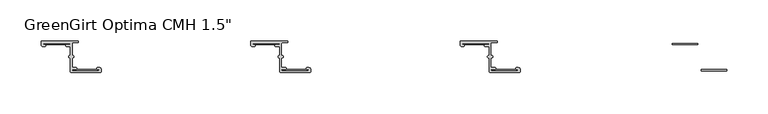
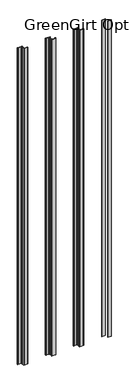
"""IFC4 building model written with IfcOpenShell, lengths in millimetres: fastener geometry."""

from ifc_helpers import new_model, si_unit, frame, origin, origin_with_axes, place, context, project, spatial, polyline, circle_curve, outline, extrude, source, transform, mapped, element, save
from ifc_brep_helpers import plane_surface, cylinder_surface, revolved_surface, advanced_brep


def fastener_6fa0a45e(model_context):
    return source(origin(), model_context, "Body", "SolidModel", [
        extrude(outline(polyline([(1101.09, -2.794), (1101.09, -4.5212), (1070.102, -4.5212), (1070.102, -2.794), (1101.09, -2.794)])), origin_with_axes(), (0.0, 0.0, 1.0), 3048.0),
        extrude(outline(polyline([(1136.269, -34.4677766), (1136.269, -36.1949766), (1105.281, -36.1949766), (1105.281, -34.4677766), (1136.269, -34.4677766)])), origin_with_axes(), (0.0, 0.0, 1.0), 3048.0),
        advanced_brep(
        [(816.102, -2.794, 3048.0), (847.471, -2.794, 3048.0), (847.471, -4.5212, 3048.0), (843.28, -4.5212, 3048.0), (843.28, -6.5532, 3048.0), (847.471, -6.5532, 3048.0), (848.233, -7.3152, 3048.0), (848.233, -17.7601563, 3048.0), (847.3845567, -17.7601563, 3048.0), (847.3845567, -20.4288947, 3048.0), (848.233, -20.4288947, 3048.0), (848.233, -37.3379766, 3048.0), (848.995, -38.0999766, 3048.0), (884.8513242, -38.1, 3048.0), (885.571, -37.3379766, 3048.0), (885.571, -34.4677766, 3048.0), (883.539, -32.4357766, 3048.0), (881.253, -32.4357766, 3048.0), (881.253, -34.4677766, 3048.0), (882.269, -34.4677766, 3048.0), (882.269, -36.1949766, 3048.0), (850.9, -36.1949766, 3048.0), (850.9, -34.4677766, 3048.0), (855.091, -34.4677766, 3048.0), (855.091, -32.4357766, 3048.0), (850.9, -32.4357766, 3048.0), (850.138, -31.6737766, 3048.0), (850.138, -20.4279799, 3048.0), (850.9869007, -20.4279799, 3048.0), (850.9869007, -17.7601563, 3048.0), (850.138, -17.7601563, 3048.0), (850.138, -2.667, 3048.0), (850.9, -1.905, 3048.0), (856.996, -1.905, 3048.0), (856.996, 0.0, 3048.0), (813.562, 0.0, 3048.0), (812.8, -0.762, 3048.0), (812.8, -4.5212, 3048.0), (814.832, -6.5532, 3048.0), (817.118, -6.5532, 3048.0), (817.118, -4.5212, 3048.0), (816.102, -4.5212, 3048.0), (816.102, -2.794, 0.0), (816.102, -4.5212, 0.0), (817.118, -4.5212, 0.0), (817.118, -6.5532, 0.0), (814.832, -6.5532, 0.0), (812.8, -4.5212, 0.0), (812.8, -0.762, 0.0), (813.562, 0.0, 0.0), (856.996, 0.0, 0.0), (856.996, -1.905, 0.0), (850.9, -1.905, 0.0), (850.138, -2.667, 0.0), (850.138, -17.7601563, 0.0), (850.9869007, -17.7601563, 0.0), (850.9869007, -20.4279799, 0.0), (850.138, -20.4279799, 0.0), (850.138, -31.6737766, 0.0), (850.9, -32.4357766, 0.0), (855.091, -32.4357766, 0.0), (855.091, -34.4677766, 0.0), (850.9, -34.4677766, 0.0), (850.9, -36.1949766, 0.0), (882.269, -36.1949766, 0.0), (882.269, -34.4677766, 0.0), (881.253, -34.4677766, 0.0), (881.253, -32.4357766, 0.0), (883.539, -32.4357766, 0.0), (885.571, -34.4677766, 0.0), (885.571, -37.3379766, 0.0), (884.809, -38.0999766, 0.0), (848.9676774, -38.1, 0.0), (848.233, -37.3379766, 0.0), (848.233, -20.4288947, 0.0), (847.3845567, -20.4288947, 0.0), (847.3845567, -17.7601563, 0.0), (848.233, -17.7601563, 0.0), (848.233, -7.3152, 0.0), (847.471, -6.5532, 0.0), (843.28, -6.5532, 0.0), (843.28, -4.5212, 0.0), (847.471, -4.5212, 0.0), (847.471, -2.794, 0.0)],
        [
            (0, 1),
            (1, 2, circle_curve(frame((847.471, -3.6576, 3048.0), z_axis=(0.0, 0.0, -1.0), x_axis=(1.0, 0.0, 0.0)), 0.8636)),
            (2, 3),
            (3, 4, circle_curve(frame((843.28, -5.5372, 3048.0), z_axis=(0.0, 0.0, 1.0), x_axis=(1.0, 0.0, 0.0)), 1.016)),
            (4, 5),
            (5, 6, circle_curve(frame((847.471, -7.3152, 3048.0), z_axis=(0.0, 0.0, -1.0), x_axis=(1.0, 0.0, 0.0)), 0.762)),
            (6, 7),
            (7, 8),
            (8, 9, circle_curve(frame((847.3845567, -19.0945255, 3048.0), z_axis=(0.0, 0.0, 1.0), x_axis=(1.0, 0.0, 0.0)), 1.3343692)),
            (9, 10),
            (10, 11),
            (11, 12, circle_curve(frame((848.995, -37.3379766, 3048.0), z_axis=(0.0, 0.0, 1.0), x_axis=(1.0, 0.0, 0.0)), 0.762)),
            (12, 13),
            (13, 14, circle_curve(frame((884.809, -37.3379766, 3048.0), z_axis=(0.0, 0.0, 1.0), x_axis=(1.0, 0.0, 0.0)), 0.762)),
            (14, 15),
            (15, 16, circle_curve(frame((883.539, -34.4677766, 3048.0), z_axis=(0.0, 0.0, 1.0), x_axis=(1.0, 0.0, 0.0)), 2.032)),
            (16, 17),
            (17, 18, circle_curve(frame((881.253, -33.4517766, 3048.0), z_axis=(0.0, 0.0, 1.0), x_axis=(1.0, 0.0, 0.0)), 1.016)),
            (18, 19),
            (19, 20, circle_curve(frame((882.269, -35.3313766, 3048.0), z_axis=(0.0, 0.0, -1.0), x_axis=(1.0, 0.0, 0.0)), 0.8636)),
            (20, 21),
            (21, 22, circle_curve(frame((850.9, -35.3313766, 3048.0), z_axis=(0.0, 0.0, -1.0), x_axis=(1.0, 0.0, 0.0)), 0.8636)),
            (22, 23),
            (23, 24, circle_curve(frame((855.091, -33.4517766, 3048.0), z_axis=(0.0, 0.0, 1.0), x_axis=(1.0, 0.0, 0.0)), 1.016)),
            (24, 25),
            (25, 26, circle_curve(frame((850.9, -31.6737766, 3048.0), z_axis=(0.0, 0.0, -1.0), x_axis=(1.0, 0.0, 0.0)), 0.762)),
            (26, 27),
            (27, 28),
            (28, 29, circle_curve(frame((850.9869007, -19.0940681, 3048.0), z_axis=(0.0, 0.0, 1.0), x_axis=(1.0, 0.0, 0.0)), 1.3339118)),
            (29, 30),
            (30, 31),
            (31, 32, circle_curve(frame((850.9, -2.667, 3048.0), z_axis=(0.0, 0.0, -1.0), x_axis=(1.0, 0.0, 0.0)), 0.762)),
            (32, 33),
            (33, 34, circle_curve(frame((856.996, -0.9525, 3048.0), z_axis=(0.0, 0.0, 1.0), x_axis=(1.0, 0.0, 0.0)), 0.9525)),
            (34, 35),
            (35, 36, circle_curve(frame((813.562, -0.762, 3048.0), z_axis=(0.0, 0.0, 1.0), x_axis=(1.0, 0.0, 0.0)), 0.762)),
            (36, 37),
            (37, 38, circle_curve(frame((814.832, -4.5212, 3048.0), z_axis=(0.0, 0.0, 1.0), x_axis=(1.0, 0.0, 0.0)), 2.032)),
            (38, 39),
            (39, 40, circle_curve(frame((817.118, -5.5372, 3048.0), z_axis=(0.0, 0.0, 1.0), x_axis=(1.0, 0.0, 0.0)), 1.016)),
            (40, 41),
            (41, 0, circle_curve(frame((816.102, -3.6576, 3048.0), z_axis=(0.0, 0.0, -1.0), x_axis=(1.0, 0.0, 0.0)), 0.8636)),
            (42, 43, circle_curve(frame((816.102, -3.6576, 0.0), z_axis=(0.0, 0.0, 1.0), x_axis=(1.0, 0.0, 0.0)), 0.8636)),
            (43, 44),
            (44, 45, circle_curve(frame((817.118, -5.5372, 0.0), z_axis=(0.0, 0.0, -1.0), x_axis=(1.0, 0.0, 0.0)), 1.016)),
            (45, 46),
            (46, 47, circle_curve(frame((814.832, -4.5212, 0.0), z_axis=(0.0, 0.0, -1.0), x_axis=(1.0, 0.0, 0.0)), 2.032)),
            (47, 48),
            (48, 49, circle_curve(frame((813.562, -0.762, 0.0), z_axis=(0.0, 0.0, -1.0), x_axis=(1.0, 0.0, 0.0)), 0.762)),
            (49, 50),
            (50, 51, circle_curve(frame((856.996, -0.9525, 0.0), z_axis=(0.0, 0.0, -1.0), x_axis=(1.0, 0.0, 0.0)), 0.9525)),
            (51, 52),
            (52, 53, circle_curve(frame((850.9, -2.667, 0.0), z_axis=(0.0, 0.0, 1.0), x_axis=(1.0, 0.0, 0.0)), 0.762)),
            (53, 54),
            (54, 55),
            (55, 56, circle_curve(frame((850.9869007, -19.0940681, 0.0), z_axis=(0.0, 0.0, -1.0), x_axis=(1.0, 0.0, 0.0)), 1.3339118)),
            (56, 57),
            (57, 58),
            (58, 59, circle_curve(frame((850.9, -31.6737766, 0.0), z_axis=(0.0, 0.0, 1.0), x_axis=(1.0, 0.0, 0.0)), 0.762)),
            (59, 60),
            (60, 61, circle_curve(frame((855.091, -33.4517766, 0.0), z_axis=(0.0, 0.0, -1.0), x_axis=(1.0, 0.0, 0.0)), 1.016)),
            (61, 62),
            (62, 63, circle_curve(frame((850.9, -35.3313766, 0.0), z_axis=(0.0, 0.0, 1.0), x_axis=(1.0, 0.0, 0.0)), 0.8636)),
            (63, 64),
            (64, 65, circle_curve(frame((882.269, -35.3313766, 0.0), z_axis=(0.0, 0.0, 1.0), x_axis=(1.0, 0.0, 0.0)), 0.8636)),
            (65, 66),
            (66, 67, circle_curve(frame((881.253, -33.4517766, 0.0), z_axis=(0.0, 0.0, -1.0), x_axis=(1.0, 0.0, 0.0)), 1.016)),
            (67, 68),
            (68, 69, circle_curve(frame((883.539, -34.4677766, 0.0), z_axis=(0.0, 0.0, -1.0), x_axis=(1.0, 0.0, 0.0)), 2.032)),
            (69, 70),
            (70, 71, circle_curve(frame((884.809, -37.3379766, 0.0), z_axis=(0.0, 0.0, -1.0), x_axis=(1.0, 0.0, 0.0)), 0.762)),
            (71, 72),
            (72, 73, circle_curve(frame((848.995, -37.3379766, 0.0), z_axis=(0.0, 0.0, -1.0), x_axis=(1.0, 0.0, 0.0)), 0.762)),
            (73, 74),
            (74, 75),
            (75, 76, circle_curve(frame((847.3845567, -19.0945255, 0.0), z_axis=(0.0, 0.0, -1.0), x_axis=(1.0, 0.0, 0.0)), 1.3343692)),
            (76, 77),
            (77, 78),
            (78, 79, circle_curve(frame((847.471, -7.3152, 0.0), z_axis=(0.0, 0.0, 1.0), x_axis=(1.0, 0.0, 0.0)), 0.762)),
            (79, 80),
            (80, 81, circle_curve(frame((843.28, -5.5372, 0.0), z_axis=(0.0, 0.0, -1.0), x_axis=(1.0, 0.0, 0.0)), 1.016)),
            (81, 82),
            (82, 83, circle_curve(frame((847.471, -3.6576, 0.0), z_axis=(0.0, 0.0, 1.0), x_axis=(1.0, 0.0, 0.0)), 0.8636)),
            (83, 42),
            (0, 42),
            (83, 1),
            (82, 2),
            (81, 3),
            (80, 4),
            (79, 5),
            (78, 6),
            (77, 7),
            (76, 8),
            (75, 9),
            (74, 10),
            (73, 11),
            (72, 12),
            (71, 13),
            (70, 14),
            (69, 15),
            (68, 16),
            (67, 17),
            (66, 18),
            (65, 19),
            (64, 20),
            (63, 21),
            (62, 22),
            (61, 23),
            (60, 24),
            (59, 25),
            (58, 26),
            (57, 27),
            (56, 28),
            (55, 29),
            (54, 30),
            (53, 31),
            (52, 32),
            (51, 33),
            (50, 34),
            (49, 35),
            (48, 36),
            (47, 37),
            (46, 38),
            (45, 39),
            (44, 40),
            (43, 41),
        ],
        [
            plane_surface(frame((847.471, -2.794, 3048.0), z_axis=(0.0, 0.0, 1.0), x_axis=(1.0, 0.0, 0.0))),
            plane_surface(frame((847.471, -2.794, 0.0), z_axis=(0.0, 0.0, -1.0), x_axis=(-1.0, 0.0, 0.0))),
            plane_surface(frame((816.102, -2.794, 3048.0), z_axis=(0.0, -1.0, 0.0), x_axis=(0.0, 0.0, -1.0))),
            revolved_surface(polyline([(848.3346, -3.6576, 0.0), (848.3346, -3.6576, 3048.0)]), (847.471, -3.6576, 0.0), (0.0, 0.0, -1.0)),
            plane_surface(frame((847.471, -4.5212, 3048.0), z_axis=(0.0, 1.0, 0.0), x_axis=(0.0, 0.0, -1.0))),
            cylinder_surface(frame((843.28, -5.5372, 0.0), z_axis=(0.0, 0.0, 1.0), x_axis=(1.0, 0.0, 0.0)), 1.016),
            plane_surface(frame((843.28, -6.5532, 3048.0), z_axis=(0.0, -1.0, 0.0), x_axis=(0.0, 0.0, -1.0))),
            revolved_surface(polyline([(848.233, -7.3152, 0.0), (848.233, -7.3152, 3048.0)]), (847.471, -7.3152, 0.0), (0.0, 0.0, -1.0)),
            plane_surface(frame((848.233, -7.3152, 3048.0), z_axis=(-1.0, 0.0, 0.0), x_axis=(0.0, 0.0, -1.0))),
            plane_surface(frame((848.233, -17.7601563, 3048.0), z_axis=(0.0, 1.0, 0.0), x_axis=(0.0, 0.0, -1.0))),
            cylinder_surface(frame((847.3845567, -19.0945255, 0.0), z_axis=(0.0, 0.0, 1.0), x_axis=(1.0, 0.0, 0.0)), 1.3343692),
            plane_surface(frame((847.3845567, -20.4288947, 3048.0), z_axis=(0.0, -1.0, 0.0), x_axis=(0.0, 0.0, -1.0))),
            plane_surface(frame((848.233, -20.4288947, 3048.0), z_axis=(-1.0, 0.0, 0.0), x_axis=(0.0, 0.0, -1.0))),
            cylinder_surface(frame((848.995, -37.3379766, 0.0), z_axis=(0.0, 0.0, 1.0), x_axis=(1.0, 0.0, 0.0)), 0.762),
            plane_surface(frame((848.9676774, -38.1, 3048.0), z_axis=(0.0, -1.0, 0.0), x_axis=(0.0, 0.0, -1.0))),
            cylinder_surface(frame((884.809, -37.3379766, 0.0), z_axis=(0.0, 0.0, 1.0), x_axis=(1.0, 0.0, 0.0)), 0.762),
            plane_surface(frame((885.571, -37.3379766, 3048.0), z_axis=(1.0, 1.3794275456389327e-12, 0.0), x_axis=(0.0, 0.0, -1.0))),
            cylinder_surface(frame((883.539, -34.4677766, 0.0), z_axis=(0.0, 0.0, 1.0), x_axis=(1.0, 0.0, 0.0)), 2.032),
            plane_surface(frame((883.539, -32.4357766, 3048.0), z_axis=(0.0, 1.0, 0.0), x_axis=(0.0, 0.0, -1.0))),
            cylinder_surface(frame((881.253, -33.4517766, 0.0), z_axis=(0.0, 0.0, 1.0), x_axis=(1.0, 0.0, 0.0)), 1.016),
            plane_surface(frame((881.253, -34.4677766, 3048.0), z_axis=(0.0, -1.0, 0.0), x_axis=(0.0, 0.0, -1.0))),
            revolved_surface(polyline([(883.1326, -35.3313766, 0.0), (883.1326, -35.3313766, 3048.0)]), (882.269, -35.3313766, 0.0), (0.0, 0.0, -1.0)),
            plane_surface(frame((882.269, -36.1949766, 3048.0), z_axis=(0.0, 1.0, 0.0), x_axis=(0.0, 0.0, -1.0))),
            revolved_surface(polyline([(851.7636, -35.3313766, 0.0), (851.7636, -35.3313766, 3048.0)]), (850.9, -35.3313766, 0.0), (0.0, 0.0, -1.0)),
            plane_surface(frame((850.9, -34.4677766, 3048.0), z_axis=(0.0, -1.0, 0.0), x_axis=(0.0, 0.0, -1.0))),
            cylinder_surface(frame((855.091, -33.4517766, 0.0), z_axis=(0.0, 0.0, 1.0), x_axis=(1.0, 0.0, 0.0)), 1.016),
            plane_surface(frame((855.091, -32.4357766, 3048.0), z_axis=(0.0, 1.0, 0.0), x_axis=(0.0, 0.0, -1.0))),
            revolved_surface(polyline([(851.6619999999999, -31.6737766, 0.0), (851.6619999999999, -31.6737766, 3048.0)]), (850.9, -31.6737766, 0.0), (0.0, 0.0, -1.0)),
            plane_surface(frame((850.138, -31.6737766, 3048.0), z_axis=(1.0, 0.0, 0.0), x_axis=(0.0, 0.0, -1.0))),
            plane_surface(frame((850.138, -20.4279799, 3048.0), z_axis=(0.0, -1.0, 0.0), x_axis=(0.0, 0.0, -1.0))),
            cylinder_surface(frame((850.9869007, -19.0940681, 0.0), z_axis=(0.0, 0.0, 1.0), x_axis=(1.0, 0.0, 0.0)), 1.3339118),
            plane_surface(frame((850.9869007, -17.7601563, 3048.0), z_axis=(0.0, 1.0, 0.0), x_axis=(0.0, 0.0, -1.0))),
            plane_surface(frame((850.138, -17.7601563, 3048.0), z_axis=(1.0, 0.0, 0.0), x_axis=(0.0, 0.0, -1.0))),
            revolved_surface(polyline([(851.6619999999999, -2.667, 0.0), (851.6619999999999, -2.667, 3048.0)]), (850.9, -2.667, 0.0), (0.0, 0.0, -1.0)),
            plane_surface(frame((850.9, -1.905, 3048.0), z_axis=(0.0, -1.0, 0.0), x_axis=(0.0, 0.0, -1.0))),
            cylinder_surface(frame((856.996, -0.9525, 0.0), z_axis=(0.0, 0.0, 1.0), x_axis=(1.0, 0.0, 0.0)), 0.9525),
            plane_surface(frame((856.996, 0.0, 3048.0), z_axis=(0.0, 1.0, 0.0), x_axis=(0.0, 0.0, -1.0))),
            cylinder_surface(frame((813.562, -0.762, 0.0), z_axis=(0.0, 0.0, 1.0), x_axis=(1.0, 0.0, 0.0)), 0.762),
            plane_surface(frame((812.8, -0.762, 3048.0), z_axis=(-1.0, 2.681638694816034e-11, 0.0), x_axis=(0.0, 0.0, -1.0))),
            cylinder_surface(frame((814.832, -4.5212, 0.0), z_axis=(0.0, 0.0, 1.0), x_axis=(1.0, 0.0, 0.0)), 2.032),
            plane_surface(frame((814.832, -6.5532, 3048.0), z_axis=(0.0, -1.0, 0.0), x_axis=(0.0, 0.0, -1.0))),
            cylinder_surface(frame((817.118, -5.5372, 0.0), z_axis=(0.0, 0.0, 1.0), x_axis=(1.0, 0.0, 0.0)), 1.016),
            plane_surface(frame((817.118, -4.5212, 3048.0), z_axis=(0.0, 1.0, 0.0), x_axis=(0.0, 0.0, -1.0))),
            revolved_surface(polyline([(816.9656, -3.6576, 0.0), (816.9656, -3.6576, 3048.0)]), (816.102, -3.6576, 0.0), (0.0, 0.0, -1.0)),
        ],
        [
            (0, [[1, 2, 3, 4, 5, 6, 7, 8, 9, 10, 11, 12, 13, 14, 15, 16, 17, 18, 19, 20, 21, 22, 23, 24, 25, 26, 27, 28, 29, 30, 31, 32, 33, 34, 35, 36, 37, 38, 39, 40, 41, 42]]),
            (1, [[43, 44, 45, 46, 47, 48, 49, 50, 51, 52, 53, 54, 55, 56, 57, 58, 59, 60, 61, 62, 63, 64, 65, 66, 67, 68, 69, 70, 71, 72, 73, 74, 75, 76, 77, 78, 79, 80, 81, 82, 83, 84]]),
            (2, [[-1, 85, -84, 86]]),
            (3, [[-2, -86, -83, 87]]),
            (4, [[-3, -87, -82, 88]]),
            (5, [[-4, -88, -81, 89]]),
            (6, [[-5, -89, -80, 90]]),
            (7, [[-6, -90, -79, 91]]),
            (8, [[-7, -91, -78, 92]]),
            (9, [[-8, -92, -77, 93]]),
            (10, [[-9, -93, -76, 94]]),
            (11, [[-10, -94, -75, 95]]),
            (12, [[-11, -95, -74, 96]]),
            (13, [[-12, -96, -73, 97]]),
            (14, [[-13, -97, -72, 98]]),
            (15, [[-14, -98, -71, 99]]),
            (16, [[-15, -99, -70, 100]]),
            (17, [[-16, -100, -69, 101]]),
            (18, [[-17, -101, -68, 102]]),
            (19, [[-18, -102, -67, 103]]),
            (20, [[-19, -103, -66, 104]]),
            (21, [[-20, -104, -65, 105]]),
            (22, [[-21, -105, -64, 106]]),
            (23, [[-22, -106, -63, 107]]),
            (24, [[-23, -107, -62, 108]]),
            (25, [[-24, -108, -61, 109]]),
            (26, [[-25, -109, -60, 110]]),
            (27, [[-26, -110, -59, 111]]),
            (28, [[-27, -111, -58, 112]]),
            (29, [[-28, -112, -57, 113]]),
            (30, [[-29, -113, -56, 114]]),
            (31, [[-30, -114, -55, 115]]),
            (32, [[-31, -115, -54, 116]]),
            (33, [[-32, -116, -53, 117]]),
            (34, [[-33, -117, -52, 118]]),
            (35, [[-34, -118, -51, 119]]),
            (36, [[-35, -119, -50, 120]]),
            (37, [[-36, -120, -49, 121]]),
            (38, [[-37, -121, -48, 122]]),
            (39, [[-38, -122, -47, 123]]),
            (40, [[-39, -123, -46, 124]]),
            (41, [[-40, -124, -45, 125]]),
            (42, [[-41, -125, -44, 126]]),
            (43, [[-42, -126, -43, -85]]),
        ],
    ),
        extrude(outline(polyline([(847.09, -2.794), (847.09, -4.5212), (816.102, -4.5212), (816.102, -2.794), (847.09, -2.794)])), origin_with_axes(), (0.0, 0.0, 1.0), 3048.0),
        extrude(outline(polyline([(882.269, -34.4677766), (882.269, -36.1949766), (851.281, -36.1949766), (851.281, -34.4677766), (882.269, -34.4677766)])), origin_with_axes(), (0.0, 0.0, 1.0), 3048.0),
        advanced_brep(
        [(562.102, -2.794, 3048.0), (593.471, -2.794, 3048.0), (593.471, -4.5212, 3048.0), (589.28, -4.5212, 3048.0), (589.28, -6.5532, 3048.0), (593.471, -6.5532, 3048.0), (594.233, -7.3152, 3048.0), (594.233, -17.7601563, 3048.0), (593.3845567, -17.7601563, 3048.0), (593.3845567, -20.4288947, 3048.0), (594.233, -20.4288947, 3048.0), (594.233, -37.3379766, 3048.0), (594.995, -38.0999766, 3048.0), (630.8513242, -38.1, 3048.0), (631.571, -37.3379766, 3048.0), (631.571, -34.4677766, 3048.0), (629.539, -32.4357766, 3048.0), (627.253, -32.4357766, 3048.0), (627.253, -34.4677766, 3048.0), (628.269, -34.4677766, 3048.0), (628.269, -36.1949766, 3048.0), (596.9, -36.1949766, 3048.0), (596.9, -34.4677766, 3048.0), (601.091, -34.4677766, 3048.0), (601.091, -32.4357766, 3048.0), (596.9, -32.4357766, 3048.0), (596.138, -31.6737766, 3048.0), (596.138, -20.4279799, 3048.0), (596.9869007, -20.4279799, 3048.0), (596.9869007, -17.7601563, 3048.0), (596.138, -17.7601563, 3048.0), (596.138, -2.667, 3048.0), (596.9, -1.905, 3048.0), (602.996, -1.905, 3048.0), (602.996, 0.0, 3048.0), (559.562, 0.0, 3048.0), (558.8, -0.762, 3048.0), (558.8, -4.5212, 3048.0), (560.832, -6.5532, 3048.0), (563.118, -6.5532, 3048.0), (563.118, -4.5212, 3048.0), (562.102, -4.5212, 3048.0), (562.102, -2.794, 0.0), (562.102, -4.5212, 0.0), (563.118, -4.5212, 0.0), (563.118, -6.5532, 0.0), (560.832, -6.5532, 0.0), (558.8, -4.5212, 0.0), (558.8, -0.762, 0.0), (559.562, 0.0, 0.0), (602.996, 0.0, 0.0), (602.996, -1.905, 0.0), (596.9, -1.905, 0.0), (596.138, -2.667, 0.0), (596.138, -17.7601563, 0.0), (596.9869007, -17.7601563, 0.0), (596.9869007, -20.4279799, 0.0), (596.138, -20.4279799, 0.0), (596.138, -31.6737766, 0.0), (596.9, -32.4357766, 0.0), (601.091, -32.4357766, 0.0), (601.091, -34.4677766, 0.0), (596.9, -34.4677766, 0.0), (596.9, -36.1949766, 0.0), (628.269, -36.1949766, 0.0), (628.269, -34.4677766, 0.0), (627.253, -34.4677766, 0.0), (627.253, -32.4357766, 0.0), (629.539, -32.4357766, 0.0), (631.571, -34.4677766, 0.0), (631.571, -37.3379766, 0.0), (630.809, -38.0999766, 0.0), (594.9676774, -38.1, 0.0), (594.233, -37.3379766, 0.0), (594.233, -20.4288947, 0.0), (593.3845567, -20.4288947, 0.0), (593.3845567, -17.7601563, 0.0), (594.233, -17.7601563, 0.0), (594.233, -7.3152, 0.0), (593.471, -6.5532, 0.0), (589.28, -6.5532, 0.0), (589.28, -4.5212, 0.0), (593.471, -4.5212, 0.0), (593.471, -2.794, 0.0)],
        [
            (0, 1),
            (1, 2, circle_curve(frame((593.471, -3.6576, 3048.0), z_axis=(0.0, 0.0, -1.0), x_axis=(1.0, 0.0, 0.0)), 0.8636)),
            (2, 3),
            (3, 4, circle_curve(frame((589.28, -5.5372, 3048.0), z_axis=(0.0, 0.0, 1.0), x_axis=(1.0, 0.0, 0.0)), 1.016)),
            (4, 5),
            (5, 6, circle_curve(frame((593.471, -7.3152, 3048.0), z_axis=(0.0, 0.0, -1.0), x_axis=(1.0, 0.0, 0.0)), 0.762)),
            (6, 7),
            (7, 8),
            (8, 9, circle_curve(frame((593.3845567, -19.0945255, 3048.0), z_axis=(0.0, 0.0, 1.0), x_axis=(1.0, 0.0, 0.0)), 1.3343692)),
            (9, 10),
            (10, 11),
            (11, 12, circle_curve(frame((594.995, -37.3379766, 3048.0), z_axis=(0.0, 0.0, 1.0), x_axis=(1.0, 0.0, 0.0)), 0.762)),
            (12, 13),
            (13, 14, circle_curve(frame((630.809, -37.3379766, 3048.0), z_axis=(0.0, 0.0, 1.0), x_axis=(1.0, 0.0, 0.0)), 0.762)),
            (14, 15),
            (15, 16, circle_curve(frame((629.539, -34.4677766, 3048.0), z_axis=(0.0, 0.0, 1.0), x_axis=(1.0, 0.0, 0.0)), 2.032)),
            (16, 17),
            (17, 18, circle_curve(frame((627.253, -33.4517766, 3048.0), z_axis=(0.0, 0.0, 1.0), x_axis=(1.0, 0.0, 0.0)), 1.016)),
            (18, 19),
            (19, 20, circle_curve(frame((628.269, -35.3313766, 3048.0), z_axis=(0.0, 0.0, -1.0), x_axis=(1.0, 0.0, 0.0)), 0.8636)),
            (20, 21),
            (21, 22, circle_curve(frame((596.9, -35.3313766, 3048.0), z_axis=(0.0, 0.0, -1.0), x_axis=(1.0, 0.0, 0.0)), 0.8636)),
            (22, 23),
            (23, 24, circle_curve(frame((601.091, -33.4517766, 3048.0), z_axis=(0.0, 0.0, 1.0), x_axis=(1.0, 0.0, 0.0)), 1.016)),
            (24, 25),
            (25, 26, circle_curve(frame((596.9, -31.6737766, 3048.0), z_axis=(0.0, 0.0, -1.0), x_axis=(1.0, 0.0, 0.0)), 0.762)),
            (26, 27),
            (27, 28),
            (28, 29, circle_curve(frame((596.9869007, -19.0940681, 3048.0), z_axis=(0.0, 0.0, 1.0), x_axis=(1.0, 0.0, 0.0)), 1.3339118)),
            (29, 30),
            (30, 31),
            (31, 32, circle_curve(frame((596.9, -2.667, 3048.0), z_axis=(0.0, 0.0, -1.0), x_axis=(1.0, 0.0, 0.0)), 0.762)),
            (32, 33),
            (33, 34, circle_curve(frame((602.996, -0.9525, 3048.0), z_axis=(0.0, 0.0, 1.0), x_axis=(1.0, 0.0, 0.0)), 0.9525)),
            (34, 35),
            (35, 36, circle_curve(frame((559.562, -0.762, 3048.0), z_axis=(0.0, 0.0, 1.0), x_axis=(1.0, 0.0, 0.0)), 0.762)),
            (36, 37),
            (37, 38, circle_curve(frame((560.832, -4.5212, 3048.0), z_axis=(0.0, 0.0, 1.0), x_axis=(1.0, 0.0, 0.0)), 2.032)),
            (38, 39),
            (39, 40, circle_curve(frame((563.118, -5.5372, 3048.0), z_axis=(0.0, 0.0, 1.0), x_axis=(1.0, 0.0, 0.0)), 1.016)),
            (40, 41),
            (41, 0, circle_curve(frame((562.102, -3.6576, 3048.0), z_axis=(0.0, 0.0, -1.0), x_axis=(1.0, 0.0, 0.0)), 0.8636)),
            (42, 43, circle_curve(frame((562.102, -3.6576, 0.0), z_axis=(0.0, 0.0, 1.0), x_axis=(1.0, 0.0, 0.0)), 0.8636)),
            (43, 44),
            (44, 45, circle_curve(frame((563.118, -5.5372, 0.0), z_axis=(0.0, 0.0, -1.0), x_axis=(1.0, 0.0, 0.0)), 1.016)),
            (45, 46),
            (46, 47, circle_curve(frame((560.832, -4.5212, 0.0), z_axis=(0.0, 0.0, -1.0), x_axis=(1.0, 0.0, 0.0)), 2.032)),
            (47, 48),
            (48, 49, circle_curve(frame((559.562, -0.762, 0.0), z_axis=(0.0, 0.0, -1.0), x_axis=(1.0, 0.0, 0.0)), 0.762)),
            (49, 50),
            (50, 51, circle_curve(frame((602.996, -0.9525, 0.0), z_axis=(0.0, 0.0, -1.0), x_axis=(1.0, 0.0, 0.0)), 0.9525)),
            (51, 52),
            (52, 53, circle_curve(frame((596.9, -2.667, 0.0), z_axis=(0.0, 0.0, 1.0), x_axis=(1.0, 0.0, 0.0)), 0.762)),
            (53, 54),
            (54, 55),
            (55, 56, circle_curve(frame((596.9869007, -19.0940681, 0.0), z_axis=(0.0, 0.0, -1.0), x_axis=(1.0, 0.0, 0.0)), 1.3339118)),
            (56, 57),
            (57, 58),
            (58, 59, circle_curve(frame((596.9, -31.6737766, 0.0), z_axis=(0.0, 0.0, 1.0), x_axis=(1.0, 0.0, 0.0)), 0.762)),
            (59, 60),
            (60, 61, circle_curve(frame((601.091, -33.4517766, 0.0), z_axis=(0.0, 0.0, -1.0), x_axis=(1.0, 0.0, 0.0)), 1.016)),
            (61, 62),
            (62, 63, circle_curve(frame((596.9, -35.3313766, 0.0), z_axis=(0.0, 0.0, 1.0), x_axis=(1.0, 0.0, 0.0)), 0.8636)),
            (63, 64),
            (64, 65, circle_curve(frame((628.269, -35.3313766, 0.0), z_axis=(0.0, 0.0, 1.0), x_axis=(1.0, 0.0, 0.0)), 0.8636)),
            (65, 66),
            (66, 67, circle_curve(frame((627.253, -33.4517766, 0.0), z_axis=(0.0, 0.0, -1.0), x_axis=(1.0, 0.0, 0.0)), 1.016)),
            (67, 68),
            (68, 69, circle_curve(frame((629.539, -34.4677766, 0.0), z_axis=(0.0, 0.0, -1.0), x_axis=(1.0, 0.0, 0.0)), 2.032)),
            (69, 70),
            (70, 71, circle_curve(frame((630.809, -37.3379766, 0.0), z_axis=(0.0, 0.0, -1.0), x_axis=(1.0, 0.0, 0.0)), 0.762)),
            (71, 72),
            (72, 73, circle_curve(frame((594.995, -37.3379766, 0.0), z_axis=(0.0, 0.0, -1.0), x_axis=(1.0, 0.0, 0.0)), 0.762)),
            (73, 74),
            (74, 75),
            (75, 76, circle_curve(frame((593.3845567, -19.0945255, 0.0), z_axis=(0.0, 0.0, -1.0), x_axis=(1.0, 0.0, 0.0)), 1.3343692)),
            (76, 77),
            (77, 78),
            (78, 79, circle_curve(frame((593.471, -7.3152, 0.0), z_axis=(0.0, 0.0, 1.0), x_axis=(1.0, 0.0, 0.0)), 0.762)),
            (79, 80),
            (80, 81, circle_curve(frame((589.28, -5.5372, 0.0), z_axis=(0.0, 0.0, -1.0), x_axis=(1.0, 0.0, 0.0)), 1.016)),
            (81, 82),
            (82, 83, circle_curve(frame((593.471, -3.6576, 0.0), z_axis=(0.0, 0.0, 1.0), x_axis=(1.0, 0.0, 0.0)), 0.8636)),
            (83, 42),
            (0, 42),
            (83, 1),
            (82, 2),
            (81, 3),
            (80, 4),
            (79, 5),
            (78, 6),
            (77, 7),
            (76, 8),
            (75, 9),
            (74, 10),
            (73, 11),
            (72, 12),
            (71, 13),
            (70, 14),
            (69, 15),
            (68, 16),
            (67, 17),
            (66, 18),
            (65, 19),
            (64, 20),
            (63, 21),
            (62, 22),
            (61, 23),
            (60, 24),
            (59, 25),
            (58, 26),
            (57, 27),
            (56, 28),
            (55, 29),
            (54, 30),
            (53, 31),
            (52, 32),
            (51, 33),
            (50, 34),
            (49, 35),
            (48, 36),
            (47, 37),
            (46, 38),
            (45, 39),
            (44, 40),
            (43, 41),
        ],
        [
            plane_surface(frame((593.471, -2.794, 3048.0), z_axis=(0.0, 0.0, 1.0), x_axis=(1.0, 0.0, 0.0))),
            plane_surface(frame((593.471, -2.794, 0.0), z_axis=(0.0, 0.0, -1.0), x_axis=(-1.0, 0.0, 0.0))),
            plane_surface(frame((562.102, -2.794, 3048.0), z_axis=(0.0, -1.0, 0.0), x_axis=(0.0, 0.0, -1.0))),
            revolved_surface(polyline([(594.3346, -3.6576, 0.0), (594.3346, -3.6576, 3048.0)]), (593.471, -3.6576, 0.0), (0.0, 0.0, -1.0)),
            plane_surface(frame((593.471, -4.5212, 3048.0), z_axis=(0.0, 1.0, 0.0), x_axis=(0.0, 0.0, -1.0))),
            cylinder_surface(frame((589.28, -5.5372, 0.0), z_axis=(0.0, 0.0, 1.0), x_axis=(1.0, 0.0, 0.0)), 1.016),
            plane_surface(frame((589.28, -6.5532, 3048.0), z_axis=(0.0, -1.0, 0.0), x_axis=(0.0, 0.0, -1.0))),
            revolved_surface(polyline([(594.233, -7.3152, 0.0), (594.233, -7.3152, 3048.0)]), (593.471, -7.3152, 0.0), (0.0, 0.0, -1.0)),
            plane_surface(frame((594.233, -7.3152, 3048.0), z_axis=(-1.0, 0.0, 0.0), x_axis=(0.0, 0.0, -1.0))),
            plane_surface(frame((594.233, -17.7601563, 3048.0), z_axis=(0.0, 1.0, 0.0), x_axis=(0.0, 0.0, -1.0))),
            cylinder_surface(frame((593.3845567, -19.0945255, 0.0), z_axis=(0.0, 0.0, 1.0), x_axis=(1.0, 0.0, 0.0)), 1.3343692),
            plane_surface(frame((593.3845567, -20.4288947, 3048.0), z_axis=(0.0, -1.0, 0.0), x_axis=(0.0, 0.0, -1.0))),
            plane_surface(frame((594.233, -20.4288947, 3048.0), z_axis=(-1.0, 0.0, 0.0), x_axis=(0.0, 0.0, -1.0))),
            cylinder_surface(frame((594.995, -37.3379766, 0.0), z_axis=(0.0, 0.0, 1.0), x_axis=(1.0, 0.0, 0.0)), 0.762),
            plane_surface(frame((594.9676774, -38.1, 3048.0), z_axis=(0.0, -1.0, 0.0), x_axis=(0.0, 0.0, -1.0))),
            cylinder_surface(frame((630.809, -37.3379766, 0.0), z_axis=(0.0, 0.0, 1.0), x_axis=(1.0, 0.0, 0.0)), 0.762),
            plane_surface(frame((631.571, -37.3379766, 3048.0), z_axis=(1.0, 1.3794275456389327e-12, 0.0), x_axis=(0.0, 0.0, -1.0))),
            cylinder_surface(frame((629.539, -34.4677766, 0.0), z_axis=(0.0, 0.0, 1.0), x_axis=(1.0, 0.0, 0.0)), 2.032),
            plane_surface(frame((629.539, -32.4357766, 3048.0), z_axis=(0.0, 1.0, 0.0), x_axis=(0.0, 0.0, -1.0))),
            cylinder_surface(frame((627.253, -33.4517766, 0.0), z_axis=(0.0, 0.0, 1.0), x_axis=(1.0, 0.0, 0.0)), 1.016),
            plane_surface(frame((627.253, -34.4677766, 3048.0), z_axis=(0.0, -1.0, 0.0), x_axis=(0.0, 0.0, -1.0))),
            revolved_surface(polyline([(629.1326, -35.3313766, 0.0), (629.1326, -35.3313766, 3048.0)]), (628.269, -35.3313766, 0.0), (0.0, 0.0, -1.0)),
            plane_surface(frame((628.269, -36.1949766, 3048.0), z_axis=(0.0, 1.0, 0.0), x_axis=(0.0, 0.0, -1.0))),
            revolved_surface(polyline([(597.7636, -35.3313766, 0.0), (597.7636, -35.3313766, 3048.0)]), (596.9, -35.3313766, 0.0), (0.0, 0.0, -1.0)),
            plane_surface(frame((596.9, -34.4677766, 3048.0), z_axis=(0.0, -1.0, 0.0), x_axis=(0.0, 0.0, -1.0))),
            cylinder_surface(frame((601.091, -33.4517766, 0.0), z_axis=(0.0, 0.0, 1.0), x_axis=(1.0, 0.0, 0.0)), 1.016),
            plane_surface(frame((601.091, -32.4357766, 3048.0), z_axis=(0.0, 1.0, 0.0), x_axis=(0.0, 0.0, -1.0))),
            revolved_surface(polyline([(597.6619999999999, -31.6737766, 0.0), (597.6619999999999, -31.6737766, 3048.0)]), (596.9, -31.6737766, 0.0), (0.0, 0.0, -1.0)),
            plane_surface(frame((596.138, -31.6737766, 3048.0), z_axis=(1.0, 0.0, 0.0), x_axis=(0.0, 0.0, -1.0))),
            plane_surface(frame((596.138, -20.4279799, 3048.0), z_axis=(0.0, -1.0, 0.0), x_axis=(0.0, 0.0, -1.0))),
            cylinder_surface(frame((596.9869007, -19.0940681, 0.0), z_axis=(0.0, 0.0, 1.0), x_axis=(1.0, 0.0, 0.0)), 1.3339118),
            plane_surface(frame((596.9869007, -17.7601563, 3048.0), z_axis=(0.0, 1.0, 0.0), x_axis=(0.0, 0.0, -1.0))),
            plane_surface(frame((596.138, -17.7601563, 3048.0), z_axis=(1.0, 0.0, 0.0), x_axis=(0.0, 0.0, -1.0))),
            revolved_surface(polyline([(597.6619999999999, -2.667, 0.0), (597.6619999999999, -2.667, 3048.0)]), (596.9, -2.667, 0.0), (0.0, 0.0, -1.0)),
            plane_surface(frame((596.9, -1.905, 3048.0), z_axis=(0.0, -1.0, 0.0), x_axis=(0.0, 0.0, -1.0))),
            cylinder_surface(frame((602.996, -0.9525, 0.0), z_axis=(0.0, 0.0, 1.0), x_axis=(1.0, 0.0, 0.0)), 0.9525),
            plane_surface(frame((602.996, 0.0, 3048.0), z_axis=(0.0, 1.0, 0.0), x_axis=(0.0, 0.0, -1.0))),
            cylinder_surface(frame((559.562, -0.762, 0.0), z_axis=(0.0, 0.0, 1.0), x_axis=(1.0, 0.0, 0.0)), 0.762),
            plane_surface(frame((558.8, -0.762, 3048.0), z_axis=(-1.0, 2.681638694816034e-11, 0.0), x_axis=(0.0, 0.0, -1.0))),
            cylinder_surface(frame((560.832, -4.5212, 0.0), z_axis=(0.0, 0.0, 1.0), x_axis=(1.0, 0.0, 0.0)), 2.032),
            plane_surface(frame((560.832, -6.5532, 3048.0), z_axis=(0.0, -1.0, 0.0), x_axis=(0.0, 0.0, -1.0))),
            cylinder_surface(frame((563.118, -5.5372, 0.0), z_axis=(0.0, 0.0, 1.0), x_axis=(1.0, 0.0, 0.0)), 1.016),
            plane_surface(frame((563.118, -4.5212, 3048.0), z_axis=(0.0, 1.0, 0.0), x_axis=(0.0, 0.0, -1.0))),
            revolved_surface(polyline([(562.9656, -3.6576, 0.0), (562.9656, -3.6576, 3048.0)]), (562.102, -3.6576, 0.0), (0.0, 0.0, -1.0)),
        ],
        [
            (0, [[1, 2, 3, 4, 5, 6, 7, 8, 9, 10, 11, 12, 13, 14, 15, 16, 17, 18, 19, 20, 21, 22, 23, 24, 25, 26, 27, 28, 29, 30, 31, 32, 33, 34, 35, 36, 37, 38, 39, 40, 41, 42]]),
            (1, [[43, 44, 45, 46, 47, 48, 49, 50, 51, 52, 53, 54, 55, 56, 57, 58, 59, 60, 61, 62, 63, 64, 65, 66, 67, 68, 69, 70, 71, 72, 73, 74, 75, 76, 77, 78, 79, 80, 81, 82, 83, 84]]),
            (2, [[-1, 85, -84, 86]]),
            (3, [[-2, -86, -83, 87]]),
            (4, [[-3, -87, -82, 88]]),
            (5, [[-4, -88, -81, 89]]),
            (6, [[-5, -89, -80, 90]]),
            (7, [[-6, -90, -79, 91]]),
            (8, [[-7, -91, -78, 92]]),
            (9, [[-8, -92, -77, 93]]),
            (10, [[-9, -93, -76, 94]]),
            (11, [[-10, -94, -75, 95]]),
            (12, [[-11, -95, -74, 96]]),
            (13, [[-12, -96, -73, 97]]),
            (14, [[-13, -97, -72, 98]]),
            (15, [[-14, -98, -71, 99]]),
            (16, [[-15, -99, -70, 100]]),
            (17, [[-16, -100, -69, 101]]),
            (18, [[-17, -101, -68, 102]]),
            (19, [[-18, -102, -67, 103]]),
            (20, [[-19, -103, -66, 104]]),
            (21, [[-20, -104, -65, 105]]),
            (22, [[-21, -105, -64, 106]]),
            (23, [[-22, -106, -63, 107]]),
            (24, [[-23, -107, -62, 108]]),
            (25, [[-24, -108, -61, 109]]),
            (26, [[-25, -109, -60, 110]]),
            (27, [[-26, -110, -59, 111]]),
            (28, [[-27, -111, -58, 112]]),
            (29, [[-28, -112, -57, 113]]),
            (30, [[-29, -113, -56, 114]]),
            (31, [[-30, -114, -55, 115]]),
            (32, [[-31, -115, -54, 116]]),
            (33, [[-32, -116, -53, 117]]),
            (34, [[-33, -117, -52, 118]]),
            (35, [[-34, -118, -51, 119]]),
            (36, [[-35, -119, -50, 120]]),
            (37, [[-36, -120, -49, 121]]),
            (38, [[-37, -121, -48, 122]]),
            (39, [[-38, -122, -47, 123]]),
            (40, [[-39, -123, -46, 124]]),
            (41, [[-40, -124, -45, 125]]),
            (42, [[-41, -125, -44, 126]]),
            (43, [[-42, -126, -43, -85]]),
        ],
    ),
        extrude(outline(polyline([(593.09, -2.794), (593.09, -4.5212), (562.102, -4.5212), (562.102, -2.794), (593.09, -2.794)])), origin_with_axes(), (0.0, 0.0, 1.0), 3048.0),
        extrude(outline(polyline([(628.269, -34.4677766), (628.269, -36.1949766), (597.281, -36.1949766), (597.281, -34.4677766), (628.269, -34.4677766)])), origin_with_axes(), (0.0, 0.0, 1.0), 3048.0),
        advanced_brep(
        [(308.102, -2.794, 3048.0), (339.471, -2.794, 3048.0), (339.471, -4.5212, 3048.0), (335.28, -4.5212, 3048.0), (335.28, -6.5532, 3048.0), (339.471, -6.5532, 3048.0), (340.233, -7.3152, 3048.0), (340.233, -17.7601563, 3048.0), (339.3845567, -17.7601563, 3048.0), (339.3845567, -20.4288947, 3048.0), (340.233, -20.4288947, 3048.0), (340.233, -37.3379766, 3048.0), (340.995, -38.0999766, 3048.0), (376.8513242, -38.1, 3048.0), (377.571, -37.3379766, 3048.0), (377.571, -34.4677766, 3048.0), (375.539, -32.4357766, 3048.0), (373.253, -32.4357766, 3048.0), (373.253, -34.4677766, 3048.0), (374.269, -34.4677766, 3048.0), (374.269, -36.1949766, 3048.0), (342.9, -36.1949766, 3048.0), (342.9, -34.4677766, 3048.0), (347.091, -34.4677766, 3048.0), (347.091, -32.4357766, 3048.0), (342.9, -32.4357766, 3048.0), (342.138, -31.6737766, 3048.0), (342.138, -20.4279799, 3048.0), (342.9869007, -20.4279799, 3048.0), (342.9869007, -17.7601563, 3048.0), (342.138, -17.7601563, 3048.0), (342.138, -2.667, 3048.0), (342.9, -1.905, 3048.0), (348.996, -1.905, 3048.0), (348.996, 0.0, 3048.0), (305.562, 0.0, 3048.0), (304.8, -0.762, 3048.0), (304.8, -4.5212, 3048.0), (306.832, -6.5532, 3048.0), (309.118, -6.5532, 3048.0), (309.118, -4.5212, 3048.0), (308.102, -4.5212, 3048.0), (308.102, -2.794, 0.0), (308.102, -4.5212, 0.0), (309.118, -4.5212, 0.0), (309.118, -6.5532, 0.0), (306.832, -6.5532, 0.0), (304.8, -4.5212, 0.0), (304.8, -0.762, 0.0), (305.562, 0.0, 0.0), (348.996, 0.0, 0.0), (348.996, -1.905, 0.0), (342.9, -1.905, 0.0), (342.138, -2.667, 0.0), (342.138, -17.7601563, 0.0), (342.9869007, -17.7601563, 0.0), (342.9869007, -20.4279799, 0.0), (342.138, -20.4279799, 0.0), (342.138, -31.6737766, 0.0), (342.9, -32.4357766, 0.0), (347.091, -32.4357766, 0.0), (347.091, -34.4677766, 0.0), (342.9, -34.4677766, 0.0), (342.9, -36.1949766, 0.0), (374.269, -36.1949766, 0.0), (374.269, -34.4677766, 0.0), (373.253, -34.4677766, 0.0), (373.253, -32.4357766, 0.0), (375.539, -32.4357766, 0.0), (377.571, -34.4677766, 0.0), (377.571, -37.3379766, 0.0), (376.809, -38.0999766, 0.0), (340.9676774, -38.1, 0.0), (340.233, -37.3379766, 0.0), (340.233, -20.4288947, 0.0), (339.3845567, -20.4288947, 0.0), (339.3845567, -17.7601563, 0.0), (340.233, -17.7601563, 0.0), (340.233, -7.3152, 0.0), (339.471, -6.5532, 0.0), (335.28, -6.5532, 0.0), (335.28, -4.5212, 0.0), (339.471, -4.5212, 0.0), (339.471, -2.794, 0.0)],
        [
            (0, 1),
            (1, 2, circle_curve(frame((339.471, -3.6576, 3048.0), z_axis=(0.0, 0.0, -1.0), x_axis=(1.0, 0.0, 0.0)), 0.8636)),
            (2, 3),
            (3, 4, circle_curve(frame((335.28, -5.5372, 3048.0), z_axis=(0.0, 0.0, 1.0), x_axis=(1.0, 0.0, 0.0)), 1.016)),
            (4, 5),
            (5, 6, circle_curve(frame((339.471, -7.3152, 3048.0), z_axis=(0.0, 0.0, -1.0), x_axis=(1.0, 0.0, 0.0)), 0.762)),
            (6, 7),
            (7, 8),
            (8, 9, circle_curve(frame((339.3845567, -19.0945255, 3048.0), z_axis=(0.0, 0.0, 1.0), x_axis=(1.0, 0.0, 0.0)), 1.3343692)),
            (9, 10),
            (10, 11),
            (11, 12, circle_curve(frame((340.995, -37.3379766, 3048.0), z_axis=(0.0, 0.0, 1.0), x_axis=(1.0, 0.0, 0.0)), 0.762)),
            (12, 13),
            (13, 14, circle_curve(frame((376.809, -37.3379766, 3048.0), z_axis=(0.0, 0.0, 1.0), x_axis=(1.0, 0.0, 0.0)), 0.762)),
            (14, 15),
            (15, 16, circle_curve(frame((375.539, -34.4677766, 3048.0), z_axis=(0.0, 0.0, 1.0), x_axis=(1.0, 0.0, 0.0)), 2.032)),
            (16, 17),
            (17, 18, circle_curve(frame((373.253, -33.4517766, 3048.0), z_axis=(0.0, 0.0, 1.0), x_axis=(1.0, 0.0, 0.0)), 1.016)),
            (18, 19),
            (19, 20, circle_curve(frame((374.269, -35.3313766, 3048.0), z_axis=(0.0, 0.0, -1.0), x_axis=(1.0, 0.0, 0.0)), 0.8636)),
            (20, 21),
            (21, 22, circle_curve(frame((342.9, -35.3313766, 3048.0), z_axis=(0.0, 0.0, -1.0), x_axis=(1.0, 0.0, 0.0)), 0.8636)),
            (22, 23),
            (23, 24, circle_curve(frame((347.091, -33.4517766, 3048.0), z_axis=(0.0, 0.0, 1.0), x_axis=(1.0, 0.0, 0.0)), 1.016)),
            (24, 25),
            (25, 26, circle_curve(frame((342.9, -31.6737766, 3048.0), z_axis=(0.0, 0.0, -1.0), x_axis=(1.0, 0.0, 0.0)), 0.762)),
            (26, 27),
            (27, 28),
            (28, 29, circle_curve(frame((342.9869007, -19.0940681, 3048.0), z_axis=(0.0, 0.0, 1.0), x_axis=(1.0, 0.0, 0.0)), 1.3339118)),
            (29, 30),
            (30, 31),
            (31, 32, circle_curve(frame((342.9, -2.667, 3048.0), z_axis=(0.0, 0.0, -1.0), x_axis=(1.0, 0.0, 0.0)), 0.762)),
            (32, 33),
            (33, 34, circle_curve(frame((348.996, -0.9525, 3048.0), z_axis=(0.0, 0.0, 1.0), x_axis=(1.0, 0.0, 0.0)), 0.9525)),
            (34, 35),
            (35, 36, circle_curve(frame((305.562, -0.762, 3048.0), z_axis=(0.0, 0.0, 1.0), x_axis=(1.0, 0.0, 0.0)), 0.762)),
            (36, 37),
            (37, 38, circle_curve(frame((306.832, -4.5212, 3048.0), z_axis=(0.0, 0.0, 1.0), x_axis=(1.0, 0.0, 0.0)), 2.032)),
            (38, 39),
            (39, 40, circle_curve(frame((309.118, -5.5372, 3048.0), z_axis=(0.0, 0.0, 1.0), x_axis=(1.0, 0.0, 0.0)), 1.016)),
            (40, 41),
            (41, 0, circle_curve(frame((308.102, -3.6576, 3048.0), z_axis=(0.0, 0.0, -1.0), x_axis=(1.0, 0.0, 0.0)), 0.8636)),
            (42, 43, circle_curve(frame((308.102, -3.6576, 0.0), z_axis=(0.0, 0.0, 1.0), x_axis=(1.0, 0.0, 0.0)), 0.8636)),
            (43, 44),
            (44, 45, circle_curve(frame((309.118, -5.5372, 0.0), z_axis=(0.0, 0.0, -1.0), x_axis=(1.0, 0.0, 0.0)), 1.016)),
            (45, 46),
            (46, 47, circle_curve(frame((306.832, -4.5212, 0.0), z_axis=(0.0, 0.0, -1.0), x_axis=(1.0, 0.0, 0.0)), 2.032)),
            (47, 48),
            (48, 49, circle_curve(frame((305.562, -0.762, 0.0), z_axis=(0.0, 0.0, -1.0), x_axis=(1.0, 0.0, 0.0)), 0.762)),
            (49, 50),
            (50, 51, circle_curve(frame((348.996, -0.9525, 0.0), z_axis=(0.0, 0.0, -1.0), x_axis=(1.0, 0.0, 0.0)), 0.9525)),
            (51, 52),
            (52, 53, circle_curve(frame((342.9, -2.667, 0.0), z_axis=(0.0, 0.0, 1.0), x_axis=(1.0, 0.0, 0.0)), 0.762)),
            (53, 54),
            (54, 55),
            (55, 56, circle_curve(frame((342.9869007, -19.0940681, 0.0), z_axis=(0.0, 0.0, -1.0), x_axis=(1.0, 0.0, 0.0)), 1.3339118)),
            (56, 57),
            (57, 58),
            (58, 59, circle_curve(frame((342.9, -31.6737766, 0.0), z_axis=(0.0, 0.0, 1.0), x_axis=(1.0, 0.0, 0.0)), 0.762)),
            (59, 60),
            (60, 61, circle_curve(frame((347.091, -33.4517766, 0.0), z_axis=(0.0, 0.0, -1.0), x_axis=(1.0, 0.0, 0.0)), 1.016)),
            (61, 62),
            (62, 63, circle_curve(frame((342.9, -35.3313766, 0.0), z_axis=(0.0, 0.0, 1.0), x_axis=(1.0, 0.0, 0.0)), 0.8636)),
            (63, 64),
            (64, 65, circle_curve(frame((374.269, -35.3313766, 0.0), z_axis=(0.0, 0.0, 1.0), x_axis=(1.0, 0.0, 0.0)), 0.8636)),
            (65, 66),
            (66, 67, circle_curve(frame((373.253, -33.4517766, 0.0), z_axis=(0.0, 0.0, -1.0), x_axis=(1.0, 0.0, 0.0)), 1.016)),
            (67, 68),
            (68, 69, circle_curve(frame((375.539, -34.4677766, 0.0), z_axis=(0.0, 0.0, -1.0), x_axis=(1.0, 0.0, 0.0)), 2.032)),
            (69, 70),
            (70, 71, circle_curve(frame((376.809, -37.3379766, 0.0), z_axis=(0.0, 0.0, -1.0), x_axis=(1.0, 0.0, 0.0)), 0.762)),
            (71, 72),
            (72, 73, circle_curve(frame((340.995, -37.3379766, 0.0), z_axis=(0.0, 0.0, -1.0), x_axis=(1.0, 0.0, 0.0)), 0.762)),
            (73, 74),
            (74, 75),
            (75, 76, circle_curve(frame((339.3845567, -19.0945255, 0.0), z_axis=(0.0, 0.0, -1.0), x_axis=(1.0, 0.0, 0.0)), 1.3343692)),
            (76, 77),
            (77, 78),
            (78, 79, circle_curve(frame((339.471, -7.3152, 0.0), z_axis=(0.0, 0.0, 1.0), x_axis=(1.0, 0.0, 0.0)), 0.762)),
            (79, 80),
            (80, 81, circle_curve(frame((335.28, -5.5372, 0.0), z_axis=(0.0, 0.0, -1.0), x_axis=(1.0, 0.0, 0.0)), 1.016)),
            (81, 82),
            (82, 83, circle_curve(frame((339.471, -3.6576, 0.0), z_axis=(0.0, 0.0, 1.0), x_axis=(1.0, 0.0, 0.0)), 0.8636)),
            (83, 42),
            (0, 42),
            (83, 1),
            (82, 2),
            (81, 3),
            (80, 4),
            (79, 5),
            (78, 6),
            (77, 7),
            (76, 8),
            (75, 9),
            (74, 10),
            (73, 11),
            (72, 12),
            (71, 13),
            (70, 14),
            (69, 15),
            (68, 16),
            (67, 17),
            (66, 18),
            (65, 19),
            (64, 20),
            (63, 21),
            (62, 22),
            (61, 23),
            (60, 24),
            (59, 25),
            (58, 26),
            (57, 27),
            (56, 28),
            (55, 29),
            (54, 30),
            (53, 31),
            (52, 32),
            (51, 33),
            (50, 34),
            (49, 35),
            (48, 36),
            (47, 37),
            (46, 38),
            (45, 39),
            (44, 40),
            (43, 41),
        ],
        [
            plane_surface(frame((339.471, -2.794, 3048.0), z_axis=(0.0, 0.0, 1.0), x_axis=(1.0, 0.0, 0.0))),
            plane_surface(frame((339.471, -2.794, 0.0), z_axis=(0.0, 0.0, -1.0), x_axis=(-1.0, 0.0, 0.0))),
            plane_surface(frame((308.102, -2.794, 3048.0), z_axis=(0.0, -1.0, 0.0), x_axis=(0.0, 0.0, -1.0))),
            revolved_surface(polyline([(340.3346, -3.6576, 0.0), (340.3346, -3.6576, 3048.0)]), (339.471, -3.6576, 0.0), (0.0, 0.0, -1.0)),
            plane_surface(frame((339.471, -4.5212, 3048.0), z_axis=(0.0, 1.0, 0.0), x_axis=(0.0, 0.0, -1.0))),
            cylinder_surface(frame((335.28, -5.5372, 0.0), z_axis=(0.0, 0.0, 1.0), x_axis=(1.0, 0.0, 0.0)), 1.016),
            plane_surface(frame((335.28, -6.5532, 3048.0), z_axis=(0.0, -1.0, 0.0), x_axis=(0.0, 0.0, -1.0))),
            revolved_surface(polyline([(340.233, -7.3152, 0.0), (340.233, -7.3152, 3048.0)]), (339.471, -7.3152, 0.0), (0.0, 0.0, -1.0)),
            plane_surface(frame((340.233, -7.3152, 3048.0), z_axis=(-1.0, 0.0, 0.0), x_axis=(0.0, 0.0, -1.0))),
            plane_surface(frame((340.233, -17.7601563, 3048.0), z_axis=(0.0, 1.0, 0.0), x_axis=(0.0, 0.0, -1.0))),
            cylinder_surface(frame((339.3845567, -19.0945255, 0.0), z_axis=(0.0, 0.0, 1.0), x_axis=(1.0, 0.0, 0.0)), 1.3343692),
            plane_surface(frame((339.3845567, -20.4288947, 3048.0), z_axis=(0.0, -1.0, 0.0), x_axis=(0.0, 0.0, -1.0))),
            plane_surface(frame((340.233, -20.4288947, 3048.0), z_axis=(-1.0, 0.0, 0.0), x_axis=(0.0, 0.0, -1.0))),
            cylinder_surface(frame((340.995, -37.3379766, 0.0), z_axis=(0.0, 0.0, 1.0), x_axis=(1.0, 0.0, 0.0)), 0.762),
            plane_surface(frame((340.9676774, -38.1, 3048.0), z_axis=(0.0, -1.0, 0.0), x_axis=(0.0, 0.0, -1.0))),
            cylinder_surface(frame((376.809, -37.3379766, 0.0), z_axis=(0.0, 0.0, 1.0), x_axis=(1.0, 0.0, 0.0)), 0.762),
            plane_surface(frame((377.571, -37.3379766, 3048.0), z_axis=(1.0, 1.3794275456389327e-12, 0.0), x_axis=(0.0, 0.0, -1.0))),
            cylinder_surface(frame((375.539, -34.4677766, 0.0), z_axis=(0.0, 0.0, 1.0), x_axis=(1.0, 0.0, 0.0)), 2.032),
            plane_surface(frame((375.539, -32.4357766, 3048.0), z_axis=(0.0, 1.0, 0.0), x_axis=(0.0, 0.0, -1.0))),
            cylinder_surface(frame((373.253, -33.4517766, 0.0), z_axis=(0.0, 0.0, 1.0), x_axis=(1.0, 0.0, 0.0)), 1.016),
            plane_surface(frame((373.253, -34.4677766, 3048.0), z_axis=(0.0, -1.0, 0.0), x_axis=(0.0, 0.0, -1.0))),
            revolved_surface(polyline([(375.1326, -35.3313766, 0.0), (375.1326, -35.3313766, 3048.0)]), (374.269, -35.3313766, 0.0), (0.0, 0.0, -1.0)),
            plane_surface(frame((374.269, -36.1949766, 3048.0), z_axis=(0.0, 1.0, 0.0), x_axis=(0.0, 0.0, -1.0))),
            revolved_surface(polyline([(343.7636, -35.3313766, 0.0), (343.7636, -35.3313766, 3048.0)]), (342.9, -35.3313766, 0.0), (0.0, 0.0, -1.0)),
            plane_surface(frame((342.9, -34.4677766, 3048.0), z_axis=(0.0, -1.0, 0.0), x_axis=(0.0, 0.0, -1.0))),
            cylinder_surface(frame((347.091, -33.4517766, 0.0), z_axis=(0.0, 0.0, 1.0), x_axis=(1.0, 0.0, 0.0)), 1.016),
            plane_surface(frame((347.091, -32.4357766, 3048.0), z_axis=(0.0, 1.0, 0.0), x_axis=(0.0, 0.0, -1.0))),
            revolved_surface(polyline([(343.662, -31.6737766, 0.0), (343.662, -31.6737766, 3048.0)]), (342.9, -31.6737766, 0.0), (0.0, 0.0, -1.0)),
            plane_surface(frame((342.138, -31.6737766, 3048.0), z_axis=(1.0, 0.0, 0.0), x_axis=(0.0, 0.0, -1.0))),
            plane_surface(frame((342.138, -20.4279799, 3048.0), z_axis=(0.0, -1.0, 0.0), x_axis=(0.0, 0.0, -1.0))),
            cylinder_surface(frame((342.9869007, -19.0940681, 0.0), z_axis=(0.0, 0.0, 1.0), x_axis=(1.0, 0.0, 0.0)), 1.3339118),
            plane_surface(frame((342.9869007, -17.7601563, 3048.0), z_axis=(0.0, 1.0, 0.0), x_axis=(0.0, 0.0, -1.0))),
            plane_surface(frame((342.138, -17.7601563, 3048.0), z_axis=(1.0, 0.0, 0.0), x_axis=(0.0, 0.0, -1.0))),
            revolved_surface(polyline([(343.662, -2.667, 0.0), (343.662, -2.667, 3048.0)]), (342.9, -2.667, 0.0), (0.0, 0.0, -1.0)),
            plane_surface(frame((342.9, -1.905, 3048.0), z_axis=(0.0, -1.0, 0.0), x_axis=(0.0, 0.0, -1.0))),
            cylinder_surface(frame((348.996, -0.9525, 0.0), z_axis=(0.0, 0.0, 1.0), x_axis=(1.0, 0.0, 0.0)), 0.9525),
            plane_surface(frame((348.996, 0.0, 3048.0), z_axis=(0.0, 1.0, 0.0), x_axis=(0.0, 0.0, -1.0))),
            cylinder_surface(frame((305.562, -0.762, 0.0), z_axis=(0.0, 0.0, 1.0), x_axis=(1.0, 0.0, 0.0)), 0.762),
            plane_surface(frame((304.8, -0.762, 3048.0), z_axis=(-1.0, 2.681638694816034e-11, 0.0), x_axis=(0.0, 0.0, -1.0))),
            cylinder_surface(frame((306.832, -4.5212, 0.0), z_axis=(0.0, 0.0, 1.0), x_axis=(1.0, 0.0, 0.0)), 2.032),
            plane_surface(frame((306.832, -6.5532, 3048.0), z_axis=(0.0, -1.0, 0.0), x_axis=(0.0, 0.0, -1.0))),
            cylinder_surface(frame((309.118, -5.5372, 0.0), z_axis=(0.0, 0.0, 1.0), x_axis=(1.0, 0.0, 0.0)), 1.016),
            plane_surface(frame((309.118, -4.5212, 3048.0), z_axis=(0.0, 1.0, 0.0), x_axis=(0.0, 0.0, -1.0))),
            revolved_surface(polyline([(308.9656, -3.6576, 0.0), (308.9656, -3.6576, 3048.0)]), (308.102, -3.6576, 0.0), (0.0, 0.0, -1.0)),
        ],
        [
            (0, [[1, 2, 3, 4, 5, 6, 7, 8, 9, 10, 11, 12, 13, 14, 15, 16, 17, 18, 19, 20, 21, 22, 23, 24, 25, 26, 27, 28, 29, 30, 31, 32, 33, 34, 35, 36, 37, 38, 39, 40, 41, 42]]),
            (1, [[43, 44, 45, 46, 47, 48, 49, 50, 51, 52, 53, 54, 55, 56, 57, 58, 59, 60, 61, 62, 63, 64, 65, 66, 67, 68, 69, 70, 71, 72, 73, 74, 75, 76, 77, 78, 79, 80, 81, 82, 83, 84]]),
            (2, [[-1, 85, -84, 86]]),
            (3, [[-2, -86, -83, 87]]),
            (4, [[-3, -87, -82, 88]]),
            (5, [[-4, -88, -81, 89]]),
            (6, [[-5, -89, -80, 90]]),
            (7, [[-6, -90, -79, 91]]),
            (8, [[-7, -91, -78, 92]]),
            (9, [[-8, -92, -77, 93]]),
            (10, [[-9, -93, -76, 94]]),
            (11, [[-10, -94, -75, 95]]),
            (12, [[-11, -95, -74, 96]]),
            (13, [[-12, -96, -73, 97]]),
            (14, [[-13, -97, -72, 98]]),
            (15, [[-14, -98, -71, 99]]),
            (16, [[-15, -99, -70, 100]]),
            (17, [[-16, -100, -69, 101]]),
            (18, [[-17, -101, -68, 102]]),
            (19, [[-18, -102, -67, 103]]),
            (20, [[-19, -103, -66, 104]]),
            (21, [[-20, -104, -65, 105]]),
            (22, [[-21, -105, -64, 106]]),
            (23, [[-22, -106, -63, 107]]),
            (24, [[-23, -107, -62, 108]]),
            (25, [[-24, -108, -61, 109]]),
            (26, [[-25, -109, -60, 110]]),
            (27, [[-26, -110, -59, 111]]),
            (28, [[-27, -111, -58, 112]]),
            (29, [[-28, -112, -57, 113]]),
            (30, [[-29, -113, -56, 114]]),
            (31, [[-30, -114, -55, 115]]),
            (32, [[-31, -115, -54, 116]]),
            (33, [[-32, -116, -53, 117]]),
            (34, [[-33, -117, -52, 118]]),
            (35, [[-34, -118, -51, 119]]),
            (36, [[-35, -119, -50, 120]]),
            (37, [[-36, -120, -49, 121]]),
            (38, [[-37, -121, -48, 122]]),
            (39, [[-38, -122, -47, 123]]),
            (40, [[-39, -123, -46, 124]]),
            (41, [[-40, -124, -45, 125]]),
            (42, [[-41, -125, -44, 126]]),
            (43, [[-42, -126, -43, -85]]),
        ],
    ),
        extrude(outline(polyline([(339.09, -2.794), (339.09, -4.5212), (308.102, -4.5212), (308.102, -2.794), (339.09, -2.794)])), origin_with_axes(), (0.0, 0.0, 1.0), 3048.0),
        extrude(outline(polyline([(374.269, -34.4677766), (374.269, -36.1949766), (343.281, -36.1949766), (343.281, -34.4677766), (374.269, -34.4677766)])), origin_with_axes(), (0.0, 0.0, 1.0), 3048.0),
    ])


if __name__ == "__main__":
    model = new_model("IFC4")
    model_context = context("Model", 3, world=origin())
    ifc_project = project(units=[si_unit("LENGTHUNIT", "METRE", prefix="MILLI")], contexts=[model_context])
    site = spatial("IfcSite", under=ifc_project)
    building = spatial("IfcBuilding", under=site)
    placement = place(None, origin())
    fastener_shape = fastener_6fa0a45e(model_context)
    element("IfcFastener", 1, ObjectType="Structural-Supporting-Components_Advanced-Architectural-Products_GreenGirt-Optima-CMH-System : GreenGirt Optima CMH 1.5\"", at=placement, inside=building, context=model_context, shape_type="MappedRepresentation", body=[
        mapped(fastener_shape, transform((0.0, 0.0, 0.0), x_axis=(1.0, 0.0, 0.0), y_axis=(0.0, 1.0, 0.0), z_axis=(0.0, 0.0, 1.0))),
    ])
    save(model, "model.ifc")
